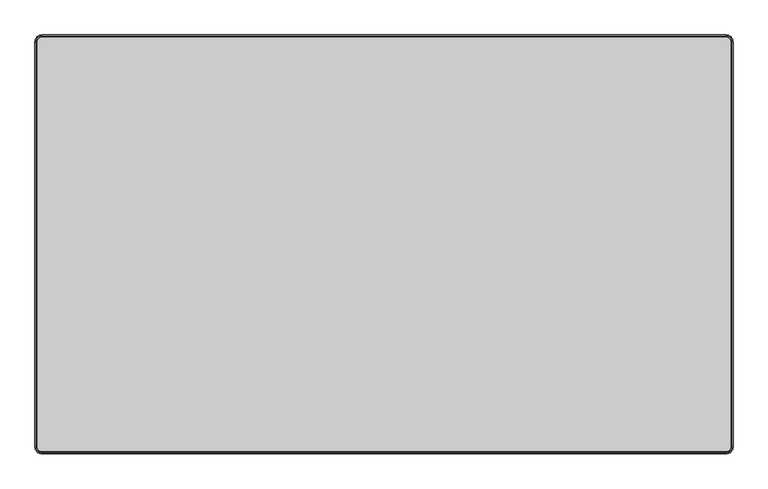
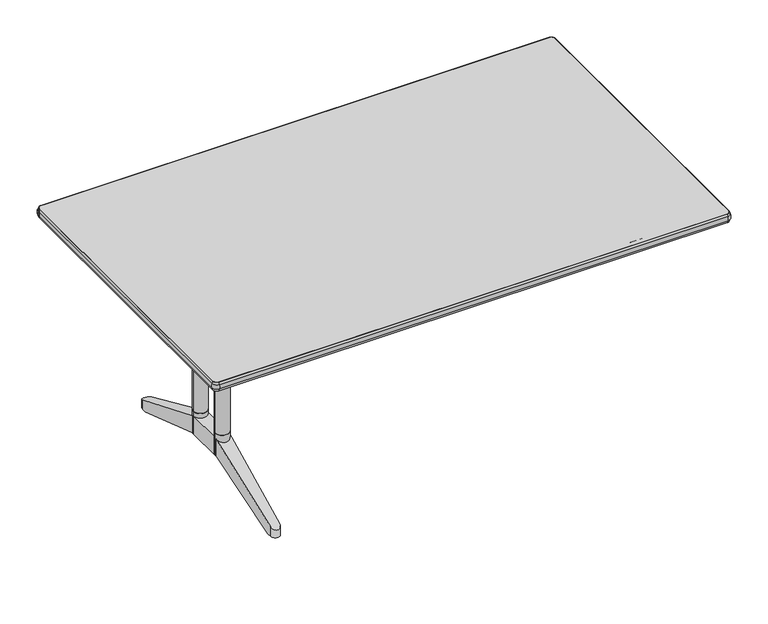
"""IFC4 building model written with IfcOpenShell, lengths in millimetres: furniture geometry, Furniture_Wilkhahn_614-00_TimetableShift : TIMETABLE SHIFT 614/00 1500L x 0900W."""

from ifc_helpers import new_model, si_unit, point, frame, frame_2d, origin, place, context, project, spatial, polyline, circle_curve, ellipse_curve, trimmed, segment, composite_curve, outline, extrude, source, transform, mapped, element, save
from ifc_brep_helpers import plane_surface, cylinder_surface, revolved_surface, advanced_brep


def furniture_3c179d77(model_context):
    return source(origin(), model_context, "Body", "SolidModel", [
        extrude(outline(composite_curve([segment(trimmed(circle_curve(frame_2d((-500.0, -154.0488451)), 20.0), [point((-520.0, -154.0488451))], [point((-480.0, -154.0488451))], False, "CARTESIAN"), True, "CONTINUOUS"), segment(trimmed(circle_curve(frame_2d((-500.0, -154.0488451)), 20.0), [point((-480.0, -154.0488451))], [point((-520.0, -154.0488451))], False, "CARTESIAN"), True, "CONTINUOUS")], self_intersect=False)), frame((0.0, 0.0, 193.3080085), z_axis=(0.0, 0.0, 1.0), x_axis=(1.0, 0.0, 0.0)), (0.0, 0.0, 1.0), 68.8536941),
        extrude(outline(composite_curve([segment(trimmed(circle_curve(frame_2d((-500.0, -44.0488461)), 20.0), [point((-520.0, -44.0488461))], [point((-480.0, -44.0488461))], False, "CARTESIAN"), True, "CONTINUOUS"), segment(trimmed(circle_curve(frame_2d((-500.0, -44.0488461)), 20.0), [point((-480.0, -44.0488461))], [point((-520.0, -44.0488461))], False, "CARTESIAN"), True, "CONTINUOUS")], self_intersect=False)), frame((0.0, 0.0, 193.3080085), z_axis=(0.0, 0.0, 1.0), x_axis=(1.0, 0.0, 0.0)), (0.0, 0.0, 1.0), 68.8536941),
        extrude(outline(composite_curve([segment(trimmed(circle_curve(frame_2d((-500.0, -154.0488451)), 20.0), [point((-520.0, -154.0488451))], [point((-480.0, -154.0488451))], False, "CARTESIAN"), True, "CONTINUOUS"), segment(trimmed(circle_curve(frame_2d((-500.0, -154.0488451)), 20.0), [point((-480.0, -154.0488451))], [point((-520.0, -154.0488451))], False, "CARTESIAN"), True, "CONTINUOUS")], self_intersect=False)), frame((0.0, 0.0, 262.1617027), z_axis=(0.0, 0.0, 1.0), x_axis=(1.0, 0.0, 0.0)), (0.0, 0.0, 1.0), 317.8382973),
        extrude(outline(composite_curve([segment(trimmed(circle_curve(frame_2d((-500.0, -44.0488461)), 20.0), [point((-520.0, -44.0488461))], [point((-480.0, -44.0488461))], False, "CARTESIAN"), True, "CONTINUOUS"), segment(trimmed(circle_curve(frame_2d((-500.0, -44.0488461)), 20.0), [point((-480.0, -44.0488461))], [point((-520.0, -44.0488461))], False, "CARTESIAN"), True, "CONTINUOUS")], self_intersect=False)), frame((0.0, 0.0, 262.1617027), z_axis=(0.0, 0.0, 1.0), x_axis=(1.0, 0.0, 0.0)), (0.0, 0.0, 1.0), 317.8382973),
        extrude(outline(polyline([(-473.9999882, 147.9511612), (-473.9999882, -352.0488426), (-526.0000118, -352.0488426), (-526.0000118, 147.9511612), (-473.9999882, 147.9511612)])), frame((0.0, 0.0, 676.0000168), z_axis=(0.0, 0.0, 1.0), x_axis=(1.0, 0.0, 0.0)), (0.0, 0.0, 1.0), 27.9999624),
        advanced_brep(
        [(-514.9998762, -140.8200278, 676.0000168), (-484.9998905, -140.8201331, 676.0000168), (-484.9998905, -134.0488456, 676.0000168), (-514.9998762, -134.0488456, 676.0000168), (-484.9998905, -57.2775581, 676.0000168), (-514.9998762, -57.2776634, 676.0000168), (-514.9998762, -64.0488456, 676.0000168), (-484.9998905, -64.0488456, 676.0000168), (-514.9998762, -57.2776634, 580.0), (-484.9998905, -57.2775581, 580.0), (-484.9998905, -140.8201331, 580.0), (-514.9998762, -140.8200278, 580.0), (-514.9998762, -134.0488456, 598.0000176), (-514.9998762, -64.0488456, 598.0000176), (-484.9998905, -64.0488456, 598.0000176), (-484.9998905, -134.0488456, 598.0000176)],
        [
            (0, 1, circle_curve(frame((-499.9999298, -154.0488451, 676.0000168), z_axis=(0.0, 0.0, 1.0), x_axis=(1.0, 0.0, 0.0)), 20.0)),
            (1, 2),
            (2, 3),
            (3, 0),
            (4, 5, circle_curve(frame((-499.9999298, -44.0488461, 676.0000168), z_axis=(0.0, 0.0, 1.0), x_axis=(1.0, 0.0, 0.0)), 20.0)),
            (5, 6),
            (6, 7),
            (7, 4),
            (8, 9, circle_curve(frame((-499.9999298, -44.0488461, 580.0), z_axis=(0.0, 0.0, -1.0), x_axis=(1.0, 0.0, 0.0)), 20.0)),
            (9, 10),
            (10, 11, circle_curve(frame((-499.9999298, -154.0488451, 580.0), z_axis=(0.0, 0.0, -1.0), x_axis=(1.0, 0.0, 0.0)), 20.0)),
            (11, 8),
            (11, 0),
            (3, 12),
            (12, 13),
            (13, 6),
            (5, 8),
            (10, 1),
            (9, 4),
            (7, 14),
            (14, 15),
            (15, 2),
            (15, 12),
            (14, 13),
        ],
        [
            plane_surface(frame((-514.9998762, -140.8200278, 676.0000168), z_axis=(0.0, 0.0, 1.0), x_axis=(0.0, -1.0, 0.0))),
            plane_surface(frame((-514.9998762, -140.8200278, 580.0), z_axis=(0.0, 0.0, -1.0), x_axis=(0.0, 1.0, 0.0))),
            plane_surface(frame((-514.9998762, -57.2776634, 676.0000168), z_axis=(-1.0, 0.0, 0.0), x_axis=(0.0, 0.0, -1.0))),
            cylinder_surface(frame((-499.9999298, -154.0488451, 580.0), z_axis=(0.0, 0.0, 1.0), x_axis=(1.0, 0.0, 0.0)), 20.0),
            plane_surface(frame((-484.9998905, -140.8201331, 676.0000168), z_axis=(1.0, 0.0, 0.0), x_axis=(0.0, 0.0, -1.0))),
            cylinder_surface(frame((-499.9999298, -44.0488461, 580.0), z_axis=(0.0, 0.0, 1.0), x_axis=(1.0, 0.0, 0.0)), 20.0),
            plane_surface(frame((-484.9998905, -134.0488456, 676.0000168), z_axis=(0.0, 1.0, 0.0), x_axis=(-1.0, 0.0, 0.0))),
            plane_surface(frame((-484.9998905, -134.0488456, 598.0000176), z_axis=(0.0, 0.0, 1.0), x_axis=(-1.0, 0.0, 0.0))),
            plane_surface(frame((-484.9998905, -64.0488456, 598.0000176), z_axis=(0.0, -1.0, 0.0), x_axis=(-1.0, 0.0, 0.0))),
        ],
        [
            (0, [[1, 2, 3, 4]]),
            (0, [[5, 6, 7, 8]]),
            (1, [[9, 10, 11, 12]]),
            (2, [[-12, 13, -4, 14, 15, 16, -6, 17]]),
            (3, [[-1, -13, -11, 18]]),
            (4, [[-10, 19, -8, 20, 21, 22, -2, -18]]),
            (5, [[-5, -19, -9, -17]]),
            (6, [[23, -14, -3, -22]]),
            (7, [[-23, -21, 24, -15]]),
            (8, [[-24, -20, -7, -16]]),
        ],
    ),
        advanced_brep(
        [(-480.0000182, -154.0488451, 248.3080085), (-480.0000182, -44.0488461, 248.3080085), (-520.0000182, -44.0488461, 248.3080085), (-520.0000182, -154.0488451, 248.3080085), (-520.0000182, -44.0488461, 193.3080085), (-520.0000182, -154.0488451, 193.3080085), (-480.0000182, -154.0488451, 193.3080085), (-480.0000182, -44.0488461, 193.3080085), (-486.5271049, 208.4135103, 105.0), (-513.472897, 208.4135103, 105.0), (-513.1262294, 221.8222582, 105.0), (-486.8737706, 221.8222564, 105.0), (-513.1262294, 221.8222582, 133.4205559), (-486.8737706, 221.8222564, 133.4205567), (-480.2000412, -36.3121196, 193.3080085), (-519.7999941, -36.3121196, 193.3080085), (-486.8737706, -419.9199475, 133.4205567), (-513.1262294, -419.9199493, 133.4205559), (-486.8737706, -419.9199475, 105.0), (-486.5271049, -406.5112014, 105.0), (-480.2000412, -161.7855715, 193.3080085), (-513.1262294, -419.9199493, 105.0), (-519.7999941, -161.7855715, 193.3080085), (-513.472897, -406.5112014, 105.0)],
        [
            (0, 1),
            (1, 2),
            (2, 3),
            (3, 0),
            (2, 4),
            (4, 5),
            (5, 3),
            (0, 6),
            (6, 7),
            (7, 1),
            (8, 9),
            (9, 10),
            (10, 11, circle_curve(frame((-500.0, 221.4828948, 105.0), z_axis=(0.0, 0.0, -1.0), x_axis=(1.0, 0.0, 0.0)), 13.1306156)),
            (11, 8),
            (12, 2),
            (1, 13),
            (13, 12, ellipse_curve(frame((-500.0, 221.4828948, 133.5672007), z_axis=(0.0, 0.3966672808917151, 0.9179624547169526), x_axis=(0.0, 0.9179624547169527, -0.39666728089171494)), 14.3040878, 13.1306156)),
            (8, 14),
            (14, 15),
            (15, 9),
            (16, 0),
            (3, 17),
            (17, 16, ellipse_curve(frame((-500.0, -419.5805859, 133.5672007), z_axis=(0.0, -0.3966672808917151, 0.9179624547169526), x_axis=(0.0, -0.9179624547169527, -0.39666728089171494)), 14.3040878, 13.1306156)),
            (16, 18),
            (18, 19),
            (19, 20),
            (20, 6),
            (17, 21),
            (21, 18, circle_curve(frame((-500.0, -419.5805859, 105.0), z_axis=(0.0, 0.0, 1.0), x_axis=(1.0, 0.0, 0.0)), 13.1306156)),
            (5, 22),
            (22, 23),
            (23, 21),
            (12, 10),
            (15, 4),
            (13, 11),
            (7, 14),
            (23, 19),
            (22, 20),
        ],
        [
            plane_surface(frame((-480.0000182, -44.0488461, 248.3080085), z_axis=(0.0, 0.0, 1.0), x_axis=(0.0, 1.0, 0.0))),
            plane_surface(frame((-520.0000182, -44.0488461, 248.3080085), z_axis=(-1.0, 0.0, 0.0), x_axis=(0.0, 0.0, -1.0))),
            plane_surface(frame((-480.0000182, -154.0488451, 248.3080085), z_axis=(1.0, 0.0, 0.0), x_axis=(0.0, 0.0, -1.0))),
            plane_surface(frame((-478.6205415, 208.4135103, 105.0), z_axis=(0.0, 0.0, -1.0), x_axis=(-1.0, 0.0, 0.0))),
            plane_surface(frame((-478.6205415, 235.9511544, 127.3152182), z_axis=(0.0, 0.3966672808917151, 0.9179624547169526), x_axis=(-1.0, 0.0, 0.0))),
            plane_surface(frame((-478.6205415, -36.3121196, 193.3080085), z_axis=(0.0, -0.3394229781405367, -0.9406338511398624), x_axis=(-1.0, 0.0, 0.0))),
            plane_surface(frame((-478.6205415, -154.0488451, 248.3080085), z_axis=(0.0, -0.3966672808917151, 0.9179624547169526), x_axis=(-1.0, 0.0, 0.0))),
            plane_surface(frame((-480.0000182, -154.0488451, 249.0000084), z_axis=(0.9996659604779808, -0.025845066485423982, 0.0), x_axis=(0.0, 0.0, -1.0))),
            cylinder_surface(frame((-500.0, -419.5805859, 90.0000025), z_axis=(0.0, 0.0, -1.0), x_axis=(1.0, 0.0, 0.0)), 13.1306156),
            plane_surface(frame((-513.1262294, -419.9199493, 249.0000084), z_axis=(-0.9996659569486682, -0.025845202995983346, 0.0), x_axis=(0.0, 0.0, -1.0))),
            plane_surface(frame((-520.0000182, -44.0488461, 249.0000084), z_axis=(-0.9996659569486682, 0.025845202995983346, 0.0), x_axis=(0.0, 0.0, -1.0))),
            cylinder_surface(frame((-500.0, 221.4828948, 0.0), z_axis=(0.0, 0.0, -1.0), x_axis=(1.0, 0.0, 0.0)), 13.1306156),
            plane_surface(frame((-486.8737706, 221.8222564, 249.0000084), z_axis=(0.9996659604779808, 0.025845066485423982, 0.0), x_axis=(0.0, 0.0, -1.0))),
            plane_surface(frame((-478.6205415, -434.0488456, 105.0), z_axis=(0.0, 0.0, -1.0), x_axis=(-1.0, 0.0, 0.0))),
            plane_surface(frame((-478.6205415, -406.5112014, 105.0), z_axis=(0.0, 0.3394229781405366, -0.9406338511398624), x_axis=(-1.0, 0.0, 0.0))),
            plane_surface(frame((-478.6205415, -44.0488461, 193.3080085), z_axis=(0.0, 0.0, -1.0), x_axis=(-1.0, 0.0, 0.0))),
        ],
        [
            (0, [[1, 2, 3, 4]]),
            (1, [[-3, 5, 6, 7]]),
            (2, [[-1, 8, 9, 10]]),
            (3, [[11, 12, 13, 14]]),
            (4, [[15, -2, 16, 17]]),
            (5, [[-11, 18, 19, 20]]),
            (6, [[21, -4, 22, 23]]),
            (7, [[24, 25, 26, 27, -8, -21]]),
            (8, [[-24, -23, 28, 29]]),
            (9, [[-28, -22, -7, 30, 31, 32]]),
            (10, [[33, -12, -20, 34, -5, -15]]),
            (11, [[-33, -17, 35, -13]]),
            (12, [[-35, -16, -10, 36, -18, -14]]),
            (13, [[37, -25, -29, -32]]),
            (14, [[-37, -31, 38, -26]]),
            (15, [[-19, -36, -9, -27, -38, -30, -6, -34]]),
        ],
    ),
        extrude(outline(composite_curve([segment(trimmed(circle_curve(frame_2d((-735.0, 335.9511544)), 10.0), [point((-745.0, 335.9511544))], [point((-735.0, 345.9511544))], False, "CARTESIAN"), True, "CONTINUOUS"), segment(polyline([(-735.0, 345.9511544), (735.0, 345.9511544)]), True, "CONTINUOUS"), segment(trimmed(circle_curve(frame_2d((735.0, 335.9511544)), 10.0), [point((735.0, 345.9511544))], [point((745.0, 335.9511544))], False, "CARTESIAN"), True, "CONTINUOUS"), segment(polyline([(745.0, 335.9511544), (745.0, -534.0488456)]), True, "CONTINUOUS"), segment(trimmed(circle_curve(frame_2d((735.0, -534.0488456)), 10.0), [point((745.0, -534.0488456))], [point((735.0, -544.0488456))], False, "CARTESIAN"), True, "CONTINUOUS"), segment(polyline([(735.0, -544.0488456), (-735.0, -544.0488456)]), True, "CONTINUOUS"), segment(trimmed(circle_curve(frame_2d((-735.0, -534.0488456)), 10.0), [point((-735.0, -544.0488456))], [point((-745.0, -534.0488456))], False, "CARTESIAN"), True, "CONTINUOUS"), segment(polyline([(-745.0, -534.0488456), (-745.0, 335.9511544)]), True, "CONTINUOUS")], self_intersect=False)), frame((0.0, 0.0, 703.9999792), z_axis=(0.0, 0.0, 1.0), x_axis=(1.0, 0.0, 0.0)), (0.0, 0.0, 1.0), 26.0000208),
        extrude(outline(composite_curve([segment(trimmed(circle_curve(frame_2d((689.999998, -500.0)), 3.5), [point((686.499998, -500.0))], [point((693.499998, -500.0))], False, "CARTESIAN"), True, "CONTINUOUS"), segment(trimmed(circle_curve(frame_2d((689.999998, -500.0)), 3.5), [point((693.499998, -500.0))], [point((686.499998, -500.0))], False, "CARTESIAN"), True, "CONTINUOUS")], self_intersect=False)), frame((0.0, -475.4394749, 0.0), z_axis=(0.0, 1.0, 0.0), x_axis=(0.0, 0.0, 1.0)), (0.0, 0.0, 1.0), 123.3906323),
        extrude(outline(composite_curve([segment(trimmed(circle_curve(frame_2d((689.999998, 500.0)), 3.5), [point((686.499998, 500.0))], [point((693.499998, 500.0))], False, "CARTESIAN"), True, "CONTINUOUS"), segment(trimmed(circle_curve(frame_2d((689.999998, 500.0)), 3.5), [point((693.499998, 500.0))], [point((686.499998, 500.0))], False, "CARTESIAN"), True, "CONTINUOUS")], self_intersect=False)), frame((0.0, -475.4394749, 0.0), z_axis=(0.0, 1.0, 0.0), x_axis=(0.0, 0.0, 1.0)), (0.0, 0.0, 1.0), 123.3906323),
        advanced_brep(
        [(-735.0, -544.0488456, 703.9999792), (-745.0, -534.0488456, 703.9999792), (-745.0, -534.0488456, 730.0), (-735.0, -544.0488456, 730.0), (-735.0, -547.4983863, 710.4062743), (-748.4495407, -534.0488456, 710.4062743), (-746.2436764, -534.0488456, 703.9999792), (-735.0, -545.292522, 703.9999792), (-735.0, -547.4983863, 723.593705), (-748.4495407, -534.0488456, 723.593705), (-735.0, -545.292522, 730.0), (-746.2436764, -534.0488456, 730.0), (735.0, -544.0488456, 730.0), (735.0, -544.0488456, 703.9999792), (735.0, -545.292522, 703.9999792), (735.0, -547.4983863, 710.4062743), (735.0, -547.4983863, 723.593705), (735.0, -545.292522, 730.0), (745.0, -534.0488456, 703.9999792), (745.0, -534.0488456, 730.0), (748.4495407, -534.0488456, 710.4062743), (746.2436764, -534.0488456, 703.9999792), (748.4495407, -534.0488456, 723.593705), (746.2436764, -534.0488456, 730.0), (745.0, 335.9511544, 730.0), (745.0, 335.9511544, 703.9999792), (746.2436764, 335.9511544, 703.9999792), (748.4495407, 335.9511544, 710.4062743), (748.4495407, 335.9511544, 723.593705), (746.2436764, 335.9511544, 730.0), (735.0, 345.9511544, 703.9999792), (735.0, 345.9511544, 730.0), (735.0, 349.4006952, 710.4062743), (735.0, 347.1948309, 703.9999792), (735.0, 349.4006952, 723.593705), (735.0, 347.1948309, 730.0), (-735.0, 345.9511544, 730.0), (-735.0, 345.9511544, 703.9999792), (-735.0, 347.1948309, 703.9999792), (-735.0, 349.4006952, 710.4062743), (-735.0, 349.4006952, 723.593705), (-735.0, 347.1948309, 730.0), (-745.0, 335.9511544, 703.9999792), (-745.0, 335.9511544, 730.0), (-748.4495407, 335.9511544, 710.4062743), (-746.2436764, 335.9511544, 703.9999792), (-748.4495407, 335.9511544, 723.593705), (-746.2436764, 335.9511544, 730.0)],
        [
            (0, 1, circle_curve(frame((-735.0, -534.0488456, 703.9999792), z_axis=(0.0, 0.0, -1.0), x_axis=(-1.0, 0.0, 0.0)), 10.0)),
            (1, 2),
            (2, 3, circle_curve(frame((-735.0, -534.0488456, 730.0), z_axis=(0.0, 0.0, 1.0), x_axis=(-1.0, 0.0, 0.0)), 10.0)),
            (3, 0),
            (4, 5, circle_curve(frame((-735.0, -534.0488456, 710.4062743), z_axis=(0.0, 0.0, -1.0), x_axis=(-1.0, 0.0, 0.0)), 13.4495407)),
            (5, 6),
            (6, 7, circle_curve(frame((-735.0, -534.0488456, 703.9999792), z_axis=(0.0, 0.0, 1.0), x_axis=(-1.0, 0.0, 0.0)), 11.2436764)),
            (7, 4),
            (8, 9, circle_curve(frame((-735.0, -534.0488456, 723.593705), z_axis=(0.0, 0.0, -1.0), x_axis=(-1.0, 0.0, 0.0)), 13.4495407)),
            (9, 5, circle_curve(frame((-735.2040596, -534.0488456, 716.9999896), z_axis=(0.0, -1.0, 0.0), x_axis=(1.0, 0.0, 0.0)), 14.7959404)),
            (4, 8, circle_curve(frame((-735.0, -534.2529051, 716.9999896), z_axis=(-1.0, 0.0, 0.0), x_axis=(0.0, 1.0, 0.0)), 14.7959404)),
            (10, 11, circle_curve(frame((-735.0, -534.0488456, 730.0), z_axis=(0.0, 0.0, -1.0), x_axis=(-1.0, 0.0, 0.0)), 11.2436764)),
            (11, 9),
            (8, 10),
            (3, 12),
            (12, 13),
            (13, 0),
            (7, 14),
            (14, 15),
            (15, 4),
            (15, 16, circle_curve(frame((735.0, -534.2529051, 716.9999896), z_axis=(-1.0, 0.0, 0.0), x_axis=(0.0, 1.0, 0.0)), 14.7959404)),
            (16, 8),
            (16, 17),
            (17, 10),
            (18, 13, circle_curve(frame((735.0, -534.0488456, 703.9999792), z_axis=(0.0, 0.0, -1.0), x_axis=(0.0, -1.0, 0.0)), 10.0)),
            (12, 19, circle_curve(frame((735.0, -534.0488456, 730.0), z_axis=(0.0, 0.0, 1.0), x_axis=(0.0, -1.0, 0.0)), 10.0)),
            (19, 18),
            (20, 15, circle_curve(frame((735.0, -534.0488456, 710.4062743), z_axis=(0.0, 0.0, -1.0), x_axis=(0.0, -1.0, 0.0)), 13.4495407)),
            (14, 21, circle_curve(frame((735.0, -534.0488456, 703.9999792), z_axis=(0.0, 0.0, 1.0), x_axis=(0.0, -1.0, 0.0)), 11.2436764)),
            (21, 20),
            (22, 16, circle_curve(frame((735.0, -534.0488456, 723.593705), z_axis=(0.0, 0.0, -1.0), x_axis=(0.0, -1.0, 0.0)), 13.4495407)),
            (20, 22, circle_curve(frame((735.2040596, -534.0488456, 716.9999896), z_axis=(0.0, -1.0, 0.0), x_axis=(-1.0, 0.0, 0.0)), 14.7959404)),
            (23, 17, circle_curve(frame((735.0, -534.0488456, 730.0), z_axis=(0.0, 0.0, -1.0), x_axis=(0.0, -1.0, 0.0)), 11.2436764)),
            (22, 23),
            (19, 24),
            (24, 25),
            (25, 18),
            (21, 26),
            (26, 27),
            (27, 20),
            (27, 28, circle_curve(frame((735.2040596, 335.9511544, 716.9999896), z_axis=(0.0, -1.0, 0.0), x_axis=(-1.0, 0.0, 0.0)), 14.7959404)),
            (28, 22),
            (28, 29),
            (29, 23),
            (30, 25, circle_curve(frame((735.0, 335.9511544, 703.9999792), z_axis=(0.0, 0.0, -1.0), x_axis=(1.0, 0.0, 0.0)), 10.0)),
            (24, 31, circle_curve(frame((735.0, 335.9511544, 730.0), z_axis=(0.0, 0.0, 1.0), x_axis=(1.0, 0.0, 0.0)), 10.0)),
            (31, 30),
            (32, 27, circle_curve(frame((735.0, 335.9511544, 710.4062743), z_axis=(0.0, 0.0, -1.0), x_axis=(1.0, 0.0, 0.0)), 13.4495407)),
            (26, 33, circle_curve(frame((735.0, 335.9511544, 703.9999792), z_axis=(0.0, 0.0, 1.0), x_axis=(1.0, 0.0, 0.0)), 11.2436764)),
            (33, 32),
            (34, 28, circle_curve(frame((735.0, 335.9511544, 723.593705), z_axis=(0.0, 0.0, -1.0), x_axis=(1.0, 0.0, 0.0)), 13.4495407)),
            (32, 34, circle_curve(frame((735.0, 336.155214, 716.9999896), z_axis=(1.0, 0.0, 0.0), x_axis=(0.0, -1.0, 0.0)), 14.7959404)),
            (35, 29, circle_curve(frame((735.0, 335.9511544, 730.0), z_axis=(0.0, 0.0, -1.0), x_axis=(1.0, 0.0, 0.0)), 11.2436764)),
            (34, 35),
            (31, 36),
            (36, 37),
            (37, 30),
            (33, 38),
            (38, 39),
            (39, 32),
            (39, 40, circle_curve(frame((-735.0, 336.155214, 716.9999896), z_axis=(1.0, 0.0, 0.0), x_axis=(0.0, -1.0, 0.0)), 14.7959404)),
            (40, 34),
            (40, 41),
            (41, 35),
            (42, 37, circle_curve(frame((-735.0, 335.9511544, 703.9999792), z_axis=(0.0, 0.0, -1.0), x_axis=(0.0, 1.0, 0.0)), 10.0)),
            (36, 43, circle_curve(frame((-735.0, 335.9511544, 730.0), z_axis=(0.0, 0.0, 1.0), x_axis=(0.0, 1.0, 0.0)), 10.0)),
            (43, 42),
            (44, 39, circle_curve(frame((-735.0, 335.9511544, 710.4062743), z_axis=(0.0, 0.0, -1.0), x_axis=(0.0, 1.0, 0.0)), 13.4495407)),
            (38, 45, circle_curve(frame((-735.0, 335.9511544, 703.9999792), z_axis=(0.0, 0.0, 1.0), x_axis=(0.0, 1.0, 0.0)), 11.2436764)),
            (45, 44),
            (46, 40, circle_curve(frame((-735.0, 335.9511544, 723.593705), z_axis=(0.0, 0.0, -1.0), x_axis=(0.0, 1.0, 0.0)), 13.4495407)),
            (44, 46, circle_curve(frame((-735.2040596, 335.9511544, 716.9999896), z_axis=(0.0, 1.0, 0.0), x_axis=(1.0, 0.0, 0.0)), 14.7959404)),
            (47, 41, circle_curve(frame((-735.0, 335.9511544, 730.0), z_axis=(0.0, 0.0, -1.0), x_axis=(0.0, 1.0, 0.0)), 11.2436764)),
            (46, 47),
            (43, 2),
            (1, 42),
            (45, 6),
            (5, 44),
            (9, 46),
            (11, 47),
        ],
        [
            revolved_surface(polyline([(-745.0, -534.0488456, 730.0), (-745.0, -534.0488456, 703.9999792)]), (-735.0, -534.0488456, 730.0), (0.0, 0.0, 1.0)),
            revolved_surface(polyline([(-746.2436764, -534.0488456, 703.9999792), (-748.4495407, -534.0488456, 710.4062743)]), (-735.0, -534.0488456, 730.0), (0.0, 0.0, 1.0)),
            revolved_surface(trimmed(ellipse_curve(frame((-735.2040596, -534.0488456, 716.9999896), z_axis=(0.0, 1.0, 0.0), x_axis=(1.0, 0.0, 0.0)), 14.7959404, 14.7959404), [point((-748.4495407, -534.0488456, 710.4062743))], [point((-748.4495407, -534.0488456, 723.593705))], True, "CARTESIAN"), (-735.0, -534.0488456, 730.0), (0.0, 0.0, 1.0)),
            revolved_surface(polyline([(-748.4495407, -534.0488456, 723.593705), (-746.2436764, -534.0488456, 730.0)]), (-735.0, -534.0488456, 730.0), (0.0, 0.0, 1.0)),
            plane_surface(frame((-735.0, -544.0488456, 730.0), z_axis=(0.0, 1.0, 0.0), x_axis=(1.0, 0.0, 0.0))),
            plane_surface(frame((-735.0, -545.292522, 703.9999792), z_axis=(0.0, -0.9455185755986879, -0.32556815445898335), x_axis=(1.0, 0.0, 0.0))),
            cylinder_surface(frame((-735.0, -534.2529051, 716.9999896), z_axis=(-1.0, 0.0, 0.0), x_axis=(0.0, 1.0, 0.0)), 14.7959404),
            plane_surface(frame((-735.0, -547.4983863, 723.593705), z_axis=(0.0, -0.945518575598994, 0.32556815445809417), x_axis=(1.0, 0.0, 0.0))),
            revolved_surface(polyline([(735.0, -544.0488456, 730.0), (735.0, -544.0488456, 703.9999792)]), (735.0, -534.0488456, 730.0), (0.0, 0.0, 1.0)),
            revolved_surface(polyline([(735.0, -545.292522, 703.9999792), (735.0, -547.4983863, 710.4062743)]), (735.0, -534.0488456, 730.0), (0.0, 0.0, 1.0)),
            revolved_surface(trimmed(ellipse_curve(frame((735.0, -534.2529051, 716.9999896), z_axis=(-1.0, 0.0, 0.0), x_axis=(0.0, 1.0, 0.0)), 14.7959404, 14.7959404), [point((735.0, -547.4983863, 710.4062743))], [point((735.0, -547.4983863, 723.593705))], True, "CARTESIAN"), (735.0, -534.0488456, 730.0), (0.0, 0.0, 1.0)),
            revolved_surface(polyline([(735.0, -547.4983863, 723.593705), (735.0, -545.292522, 730.0)]), (735.0, -534.0488456, 730.0), (0.0, 0.0, 1.0)),
            plane_surface(frame((745.0, -534.0488456, 730.0), z_axis=(-1.0, 0.0, 0.0), x_axis=(0.0, 1.0, 0.0))),
            plane_surface(frame((746.2436764, -534.0488456, 703.9999792), z_axis=(0.9455185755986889, 0.0, -0.32556815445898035), x_axis=(0.0, 1.0, 0.0))),
            cylinder_surface(frame((735.2040596, -534.0488456, 716.9999896), z_axis=(0.0, -1.0, 0.0), x_axis=(-1.0, 0.0, 0.0)), 14.7959404),
            plane_surface(frame((748.4495407, -534.0488456, 723.593705), z_axis=(0.945518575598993, 0.0, 0.32556815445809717), x_axis=(0.0, 1.0, 0.0))),
            revolved_surface(polyline([(745.0, 335.9511544, 730.0), (745.0, 335.9511544, 703.9999792)]), (735.0, 335.9511544, 730.0), (0.0, 0.0, 1.0)),
            revolved_surface(polyline([(746.2436764, 335.9511544, 703.9999792), (748.4495407, 335.9511544, 710.4062743)]), (735.0, 335.9511544, 730.0), (0.0, 0.0, 1.0)),
            revolved_surface(trimmed(ellipse_curve(frame((735.2040596, 335.9511544, 716.9999896), z_axis=(0.0, -1.0, 0.0), x_axis=(-1.0, 0.0, 0.0)), 14.7959404, 14.7959404), [point((748.4495407, 335.9511544, 710.4062743))], [point((748.4495407, 335.9511544, 723.593705))], True, "CARTESIAN"), (735.0, 335.9511544, 730.0), (0.0, 0.0, 1.0)),
            revolved_surface(polyline([(748.4495407, 335.9511544, 723.593705), (746.2436764, 335.9511544, 730.0)]), (735.0, 335.9511544, 730.0), (0.0, 0.0, 1.0)),
            plane_surface(frame((735.0, 345.9511544, 730.0), z_axis=(0.0, -1.0, 0.0), x_axis=(-1.0, 0.0, 0.0))),
            plane_surface(frame((735.0, 347.1948309, 703.9999792), z_axis=(0.0, 0.9455185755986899, -0.32556815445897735), x_axis=(-1.0, 0.0, 0.0))),
            cylinder_surface(frame((735.0, 336.155214, 716.9999896), z_axis=(1.0, 0.0, 0.0), x_axis=(0.0, -1.0, 0.0)), 14.7959404),
            plane_surface(frame((735.0, 349.4006952, 723.593705), z_axis=(0.0, 0.945518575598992, 0.32556815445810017), x_axis=(-1.0, 0.0, 0.0))),
            revolved_surface(polyline([(-735.0, 345.9511544, 730.0), (-735.0, 345.9511544, 703.9999792)]), (-735.0, 335.9511544, 730.0), (0.0, 0.0, 1.0)),
            revolved_surface(polyline([(-735.0, 347.1948309, 703.9999792), (-735.0, 349.4006952, 710.4062743)]), (-735.0, 335.9511544, 730.0), (0.0, 0.0, 1.0)),
            revolved_surface(trimmed(ellipse_curve(frame((-735.0, 336.155214, 716.9999896), z_axis=(1.0, 0.0, 0.0), x_axis=(0.0, -1.0, 0.0)), 14.7959404, 14.7959404), [point((-735.0, 349.4006952, 710.4062743))], [point((-735.0, 349.4006952, 723.593705))], True, "CARTESIAN"), (-735.0, 335.9511544, 730.0), (0.0, 0.0, 1.0)),
            revolved_surface(polyline([(-735.0, 349.4006952, 723.593705), (-735.0, 347.1948309, 730.0)]), (-735.0, 335.9511544, 730.0), (0.0, 0.0, 1.0)),
            plane_surface(frame((-745.0, 335.9511544, 730.0), z_axis=(1.0, 0.0, 0.0), x_axis=(0.0, -1.0, 0.0))),
            plane_surface(frame((-746.2436764, 335.9511544, 703.9999792), z_axis=(-0.9455185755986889, 0.0, -0.32556815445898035), x_axis=(0.0, -1.0, 0.0))),
            cylinder_surface(frame((-735.2040596, 335.9511544, 716.9999896), z_axis=(0.0, 1.0, 0.0), x_axis=(1.0, 0.0, 0.0)), 14.7959404),
            plane_surface(frame((-748.4495407, 335.9511544, 723.593705), z_axis=(-0.945518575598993, 0.0, 0.32556815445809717), x_axis=(0.0, -1.0, 0.0))),
            plane_surface(frame((-745.0, 335.9511544, 703.9999792), z_axis=(0.0, 0.0, -1.0), x_axis=(0.0, -1.0, 0.0))),
            plane_surface(frame((-746.2436764, 335.9511544, 730.0), z_axis=(0.0, 0.0, 1.0), x_axis=(0.0, -1.0, 0.0))),
        ],
        [
            (0, [[1, 2, 3, 4]]),
            (1, [[5, 6, 7, 8]]),
            (2, [[9, 10, -5, 11]]),
            (3, [[12, 13, -9, 14]]),
            (4, [[-4, 15, 16, 17]]),
            (5, [[-8, 18, 19, 20]]),
            (6, [[-11, -20, 21, 22]]),
            (7, [[-14, -22, 23, 24]]),
            (8, [[25, -16, 26, 27]]),
            (9, [[28, -19, 29, 30]]),
            (10, [[31, -21, -28, 32]]),
            (11, [[33, -23, -31, 34]]),
            (12, [[-27, 35, 36, 37]]),
            (13, [[-30, 38, 39, 40]]),
            (14, [[-32, -40, 41, 42]]),
            (15, [[-34, -42, 43, 44]]),
            (16, [[45, -36, 46, 47]]),
            (17, [[48, -39, 49, 50]]),
            (18, [[51, -41, -48, 52]]),
            (19, [[53, -43, -51, 54]]),
            (20, [[-47, 55, 56, 57]]),
            (21, [[-50, 58, 59, 60]]),
            (22, [[-52, -60, 61, 62]]),
            (23, [[-54, -62, 63, 64]]),
            (24, [[65, -56, 66, 67]]),
            (25, [[68, -59, 69, 70]]),
            (26, [[71, -61, -68, 72]]),
            (27, [[73, -63, -71, 74]]),
            (28, [[-67, 75, -2, 76]]),
            (29, [[-70, 77, -6, 78]]),
            (30, [[-72, -78, -10, 79]]),
            (31, [[-74, -79, -13, 80]]),
            (32, [[-77, -69, -58, -49, -38, -29, -18, -7], [-57, -65, -76, -1, -17, -25, -37, -45]]),
            (33, [[-64, -73, -80, -12, -24, -33, -44, -53], [-75, -66, -55, -46, -35, -26, -15, -3]]),
        ],
    ),
        advanced_brep(
        [(-525.9999286, -475.4394749, 701.7335614), (-525.9999286, -475.4394749, 686.7335614), (-445.1927788, -475.4394749, 678.733541), (-444.000359, -475.4394749, 693.733541), (444.000359, -475.4394749, 693.733541), (445.1927788, -475.4394749, 678.733541), (525.8748715, -475.4394749, 701.7335614), (525.8748715, -475.4394749, 686.7335614), (494.0003594, -475.4394749, 701.7335614), (495.1927792, -475.4394749, 686.7335614), (-494.0003594, -475.4394749, 701.7335614), (-495.1927792, -475.4394749, 686.7335614)],
        [
            (0, 1, circle_curve(frame((-525.9999286, -475.4394749, 694.2335614), z_axis=(-1.0, 0.0, 0.0), x_axis=(0.0, 0.0, -1.0)), 7.5)),
            (1, 0, circle_curve(frame((-525.9999286, -475.4394749, 694.2335614), z_axis=(-1.0, 0.0, 0.0), x_axis=(0.0, 0.0, -1.0)), 7.5)),
            (2, 3, ellipse_curve(frame((-444.5965689, -475.4394749, 686.233541), z_axis=(0.9968551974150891, 0.0, -0.07924465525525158), x_axis=(-0.0792446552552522, 0.0, -0.9968551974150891)), 7.5236604, 7.5)),
            (3, 4),
            (4, 5, ellipse_curve(frame((444.5965689, -475.4394749, 686.233541), z_axis=(-0.9968551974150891, 0.0, -0.07924465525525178), x_axis=(-0.07924465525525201, 0.0, 0.9968551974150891)), 7.5236604, 7.5)),
            (5, 2),
            (3, 2, ellipse_curve(frame((-444.5965689, -475.4394749, 686.233541), z_axis=(0.9968551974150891, 0.0, -0.07924465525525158), x_axis=(-0.0792446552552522, 0.0, -0.9968551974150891)), 7.5236604, 7.5)),
            (5, 4, ellipse_curve(frame((444.5965689, -475.4394749, 686.233541), z_axis=(-0.9968551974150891, 0.0, -0.07924465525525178), x_axis=(-0.07924465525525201, 0.0, 0.9968551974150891)), 7.5236604, 7.5)),
            (6, 7, circle_curve(frame((525.8748715, -475.4394749, 694.2335614), z_axis=(1.0, 0.0, 0.0), x_axis=(0.0, 0.0, -1.0)), 7.5)),
            (7, 6, circle_curve(frame((525.8748715, -475.4394749, 694.2335614), z_axis=(1.0, 0.0, 0.0), x_axis=(0.0, 0.0, -1.0)), 7.5)),
            (4, 8),
            (8, 9, ellipse_curve(frame((494.5965693, -475.4394749, 694.2335614), z_axis=(-0.9968551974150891, 0.0, -0.07924465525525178), x_axis=(0.07924465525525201, 0.0, -0.9968551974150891)), 7.5236604, 7.5)),
            (9, 5),
            (9, 8, ellipse_curve(frame((494.5965693, -475.4394749, 694.2335614), z_axis=(-0.9968551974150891, 0.0, -0.07924465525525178), x_axis=(0.07924465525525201, 0.0, -0.9968551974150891)), 7.5236604, 7.5)),
            (8, 6),
            (7, 9),
            (0, 10),
            (10, 11, ellipse_curve(frame((-494.5965693, -475.4394749, 694.2335614), z_axis=(-0.9968551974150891, 0.0, 0.07924465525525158), x_axis=(-0.0792446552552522, 0.0, -0.9968551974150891)), 7.5236604, 7.5)),
            (11, 1),
            (11, 10, ellipse_curve(frame((-494.5965693, -475.4394749, 694.2335614), z_axis=(-0.9968551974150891, 0.0, 0.07924465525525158), x_axis=(-0.0792446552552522, 0.0, -0.9968551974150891)), 7.5236604, 7.5)),
            (10, 3),
            (2, 11),
        ],
        [
            plane_surface(frame((-525.9999286, -549.0488456, 664.0000082), z_axis=(-1.0, 0.0, 0.0), x_axis=(0.0, 1.0, 0.0))),
            cylinder_surface(frame((-446.9999746, -475.4394749, 686.233541), z_axis=(-1.0, 0.0, 0.0), x_axis=(0.0, 0.0, -1.0)), 7.5),
            plane_surface(frame((525.8748715, -549.0488456, 664.0000082), z_axis=(1.0, 0.0, 0.0), x_axis=(0.0, 1.0, 0.0))),
            cylinder_surface(frame((442.2233486, -475.4394749, 685.8538248), z_axis=(-0.9874405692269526, 0.0, -0.15799089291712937), x_axis=(0.15799089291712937, 0.0, -0.9874405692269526)), 7.5),
            cylinder_surface(frame((496.999975, -475.4394749, 694.2335614), z_axis=(-1.0, 0.0, 0.0), x_axis=(0.0, 0.0, -1.0)), 7.5),
            cylinder_surface(frame((-525.9999286, -475.4394749, 694.2335614), z_axis=(-1.0, 0.0, 0.0), x_axis=(0.0, 0.0, -1.0)), 7.5),
            cylinder_surface(frame((-492.2233489, -475.4394749, 693.8538452), z_axis=(-0.9874405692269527, 0.0, 0.15799089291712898), x_axis=(-0.15799089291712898, 0.0, -0.9874405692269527)), 7.5),
        ],
        [
            (0, [[1, 2]]),
            (1, [[3, 4, 5, 6]]),
            (1, [[7, -6, 8, -4]]),
            (2, [[9, 10]]),
            (3, [[-5, 11, 12, 13]]),
            (3, [[-8, -13, 14, -11]]),
            (4, [[-12, 15, -10, 16]]),
            (4, [[-14, -16, -9, -15]]),
            (5, [[-1, 17, 18, 19]]),
            (5, [[-2, -19, 20, -17]]),
            (6, [[-18, 21, -3, 22]]),
            (6, [[-20, -22, -7, -21]]),
        ],
    ),
        extrude(outline(polyline([(-66.0488461, 600.0000046), (-66.0488461, 658.0000254), (-64.0488456, 658.0000254), (-64.0488456, 598.0000176), (-134.0488456, 598.0000176), (-134.0488456, 658.0000254), (-132.048845, 658.0000254), (-132.048845, 600.0000046), (-66.0488461, 600.0000046)])), frame((-515.0, 0.0, 0.0), z_axis=(1.0, 0.0, 0.0), x_axis=(0.0, 1.0, 0.0)), (0.0, 0.0, 1.0), 1030.0),
    ])


if __name__ == "__main__":
    model = new_model("IFC4")
    model_context = context("Model", 3, world=origin())
    ifc_project = project(units=[si_unit("LENGTHUNIT", "METRE", prefix="MILLI")], contexts=[model_context])
    site = spatial("IfcSite", under=ifc_project)
    building = spatial("IfcBuilding", under=site)
    placement = place(None, origin())
    furniture_shape = furniture_3c179d77(model_context)
    element("IfcFurniture", 1, ObjectType="Furniture_Wilkhahn_614-00_TimetableShift : TIMETABLE SHIFT 614/00 1500L x 0900W", at=placement, inside=building, context=model_context, shape_type="MappedRepresentation", body=[
        mapped(furniture_shape, transform((0.0, 0.0, 0.0), x_axis=(1.0, 0.0, 0.0), y_axis=(0.0, 1.0, 0.0), z_axis=(0.0, 0.0, 1.0))),
    ])
    save(model, "model.ifc")
